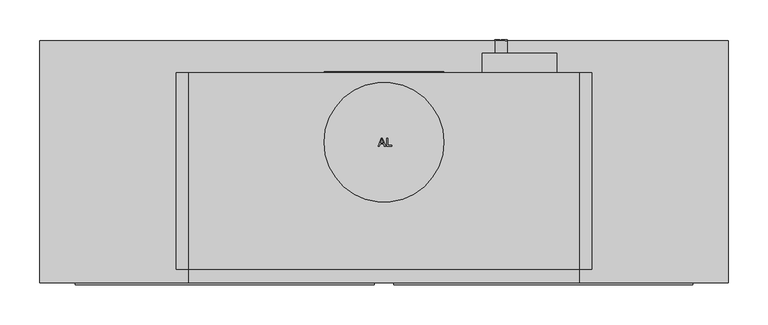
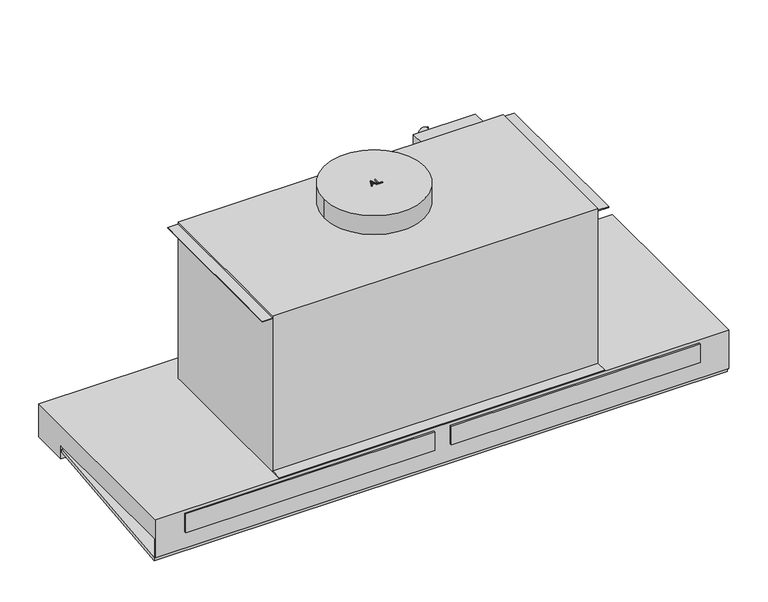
"""IFC4 building model written with IfcOpenShell, lengths in millimetres: proxy geometry, 12011370_TR_DAS4940_GLTR : 28S4940T_TR_12011370_DAS4940_GLTR."""

from ifc_helpers import new_model, si_unit, point, frame, frame_2d, origin, origin_with_axes, place, context, project, spatial, polyline, circle_curve, trimmed, segment, composite_curve, outline, extrude, faceted_brep, source, transform, mapped, element, save
from ifc_brep_helpers import plane_surface, revolved_surface, advanced_brep


def specialty_equipment_05735b6a(model_context):
    return source(origin(), model_context, "Body", "SolidModel", [
        extrude(outline(polyline([(77.8856768, -57.4839826), (77.8856768, -59.8818533), (-77.8856768, -59.8818533), (-77.8856768, -57.4839826), (77.8856768, -57.4839826)])), frame((0.0, 0.0, -47.0), z_axis=(0.0, 0.0, 1.0), x_axis=(1.0, 0.0, 0.0)), (0.0, 0.0, 1.0), 13.3389155),
        extrude(outline(polyline([(119.0, -21.25), (119.0, -33.75), (-119.0, -33.75), (-119.0, -21.25), (119.0, -21.25)])), frame((0.0, 0.0, -52.0), z_axis=(0.0, 0.0, 1.0), x_axis=(1.0, 0.0, 0.0)), (0.0, 0.0, 1.0), 1.0),
        extrude(outline(composite_curve([segment(trimmed(circle_curve(frame_2d((96.0, 0.0)), 75.0), [point((96.0, -75.0))], [point((96.0, 75.0))], False, "CARTESIAN"), True, "CONTINUOUS"), segment(trimmed(circle_curve(frame_2d((96.0, 0.0)), 75.0), [point((96.0, 75.0))], [point((96.0, -75.0))], False, "CARTESIAN"), True, "CONTINUOUS")], self_intersect=False)), frame((0.0, -40.0, 0.0), z_axis=(0.0, 1.0, 0.0), x_axis=(0.0, 0.0, 1.0)), (0.0, 0.0, 1.0), 1.0),
        extrude(outline(polyline([(-7.1443719, -132.0), (-3.1344581, -121.954369), (-2.0651478, -121.954369), (1.9447659, -132.0), (0.6179382, -132.0), (-0.5323062, -128.8607403), (-4.6697523, -128.8607403), (-5.8175442, -132.0), (-7.1443719, -132.0)]), holes=[polyline([(-4.2086736, -127.6050364), (-0.9909324, -127.6050364), (-1.8959221, -125.135322), (-2.599803, -123.2100729), (-3.2252024, -124.9194979), (-4.2086736, -127.6050364)])]), frame((0.0, 0.0, 278.0), z_axis=(0.0, 0.0, 1.0), x_axis=(1.0, 0.0, 0.0)), (0.0, 0.0, 1.0), 1.0),
        extrude(outline(polyline([(3.2863089, -132.0), (3.2863089, -121.954369), (4.5420128, -121.954369), (4.5420128, -130.7442961), (9.5648283, -130.7442961), (9.5648283, -132.0), (3.2863089, -132.0)])), frame((0.0, 0.0, 278.0), z_axis=(0.0, 0.0, 1.0), x_axis=(1.0, 0.0, 0.0)), (0.0, 0.0, 1.0), 1.0),
        extrude(outline(polyline([(244.2, -285.7), (244.2, -303.0), (-244.2, -303.0), (-244.2, -285.7), (244.2, -285.7)])), origin_with_axes(), (0.0, 0.0, 1.0), 1.5),
        extrude(outline(composite_curve([segment(trimmed(circle_curve(frame_2d((0.0, -127.0)), 75.0), [point((-75.0, -127.0))], [point((75.0, -127.0))], False, "CARTESIAN"), True, "CONTINUOUS"), segment(trimmed(circle_curve(frame_2d((0.0, -127.0)), 75.0), [point((75.0, -127.0))], [point((-75.0, -127.0))], False, "CARTESIAN"), True, "CONTINUOUS")], self_intersect=False)), frame((0.0, 0.0, 248.0), z_axis=(0.0, 0.0, 1.0), x_axis=(1.0, 0.0, 0.0)), (0.0, 0.0, 1.0), 30.0),
        extrude(outline(polyline([(244.2, -40.0), (244.2, -285.7), (-244.2, -285.7), (-244.2, -40.0), (244.2, -40.0)])), origin_with_axes(), (0.0, 0.0, 1.0), 248.0),
        advanced_brep(
        [(139.2477053, -32.0, 112.309241), (143.1522947, -32.0, 112.309241), (138.736538, -40.0, 112.309241), (143.663462, -40.0, 112.309241)],
        [
            (0, 1, circle_curve(frame((141.2, -32.0, 112.309241), z_axis=(0.0, 1.0, 0.0), x_axis=(-1.0, 0.0, 0.0)), 1.9522947)),
            (1, 0, circle_curve(frame((141.2, -32.0, 112.309241), z_axis=(0.0, 1.0, 0.0), x_axis=(1.0, 0.0, 0.0)), 1.9522947)),
            (2, 3, circle_curve(frame((141.2, -40.0, 112.309241), z_axis=(0.0, -1.0, 0.0), x_axis=(1.0, 0.0, 0.0)), 2.463462)),
            (3, 2, circle_curve(frame((141.2, -40.0, 112.309241), z_axis=(0.0, -1.0, 0.0), x_axis=(-1.0, 0.0, 0.0)), 2.463462)),
            (2, 0),
            (1, 3),
        ],
        [
            plane_surface(frame((141.2, -32.0, 112.309241), z_axis=(0.0, 1.0, 0.0), x_axis=(0.0, 0.0, -1.0))),
            plane_surface(frame((141.2, -40.0, 112.309241), z_axis=(0.0, -1.0, 0.0), x_axis=(0.0, 0.0, -1.0))),
            revolved_surface(polyline([(143.15229478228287, -32.0, 112.309241), (143.663462, -40.0, 112.309241)]), (141.2, -1.4456966, 112.309241), (0.0, -1.0, 0.0)),
            revolved_surface(polyline([(139.2477052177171, -32.0, 112.309241), (138.736538, -40.0, 112.309241)]), (141.2, -1.4456966, 112.309241), (0.0, -1.0, 0.0)),
        ],
        [
            (0, [[1, 2]]),
            (1, [[3, 4]]),
            (2, [[-3, 5, -2, 6]]),
            (3, [[-4, -6, -1, -5]]),
        ],
    ),
        extrude(outline(polyline([(-12.3800203, -305.5611099), (-386.3800203, -305.5611099), (-386.3800203, -303.0), (-12.3800203, -303.0), (-12.3800203, -305.5611099)])), frame((0.0, 0.0, -35.0), z_axis=(0.0, 0.0, 1.0), x_axis=(1.0, 0.0, 0.0)), (0.0, 0.0, 1.0), 30.0),
        extrude(outline(polyline([(386.3800203, -305.5611099), (12.3800203, -305.5611099), (12.3800203, -303.0), (386.3800203, -303.0), (386.3800203, -305.5611099)])), frame((0.0, 0.0, -35.0), z_axis=(0.0, 0.0, 1.0), x_axis=(1.0, 0.0, 0.0)), (0.0, 0.0, 1.0), 30.0),
        extrude(outline(polyline([(225.5721205, 154.3772603), (235.6177515, 154.3772603), (235.6177515, 147.156963), (234.3620477, 147.156963), (234.3620477, 153.1215564), (231.3797509, 153.1215564), (231.3797509, 147.470889), (230.1240471, 147.470889), (230.1240471, 153.1215564), (226.8278244, 153.1215564), (226.8278244, 147.0), (225.5721205, 147.0), (225.5721205, 154.3772603)])), frame((0.0, 0.0, 0.0), z_axis=(0.0, 1.0, 0.0), x_axis=(0.0, 0.0, 1.0)), (0.0, 0.0, 1.0), 1.0),
        extrude(outline(polyline([(225.5721205, 145.1164442), (235.6177515, 145.1164442), (235.6177515, 143.8607403), (226.8278244, 143.8607403), (226.8278244, 138.8379248), (225.5721205, 138.8379248), (225.5721205, 145.1164442)])), frame((0.0, 0.0, 0.0), z_axis=(0.0, 1.0, 0.0), x_axis=(0.0, 0.0, 1.0)), (0.0, 0.0, 1.0), 1.0),
        extrude(outline(composite_curve([segment(trimmed(circle_curve(frame_2d((230.0, 147.0)), 7.5), [point((230.0, 139.5))], [point((230.0, 154.5))], False, "CARTESIAN"), True, "CONTINUOUS"), segment(trimmed(circle_curve(frame_2d((230.0, 147.0)), 7.5), [point((230.0, 154.5))], [point((230.0, 139.5))], False, "CARTESIAN"), True, "CONTINUOUS")], self_intersect=False)), frame((0.0, -15.8362154, 0.0), z_axis=(0.0, 1.0, 0.0), x_axis=(0.0, 0.0, 1.0)), (0.0, 0.0, 1.0), 15.8362154),
        extrude(outline(polyline([(216.0, -40.0), (123.0, -40.0), (123.0, -15.8362154), (216.0, -15.8362154), (216.0, -40.0)])), frame((0.0, 0.0, 204.0), z_axis=(0.0, 0.0, 1.0), x_axis=(1.0, 0.0, 0.0)), (0.0, 0.0, 1.0), 40.0),
        extrude(outline(polyline([(260.2, -40.0), (260.2, -285.7), (244.2, -285.7), (244.2, -40.0), (260.2, -40.0)])), frame((0.0, 0.0, 244.0), z_axis=(0.0, 0.0, 1.0), x_axis=(1.0, 0.0, 0.0)), (0.0, 0.0, 1.0), 1.0),
        extrude(outline(polyline([(-260.2, -40.0), (-244.2, -40.0), (-244.2, -285.7), (-260.2, -285.7), (-260.2, -40.0)])), frame((0.0, 0.0, 244.0), z_axis=(0.0, 0.0, 1.0), x_axis=(1.0, 0.0, 0.0)), (0.0, 0.0, 1.0), 1.0),
        faceted_brep([(430.5, -299.7468379, -67.5557033), (430.5, -59.2082867, -41.0), (430.5, -59.7569582, -36.0301952), (430.5, -300.2955094, -62.5858985), (-430.5, -299.7468379, -67.5557033), (-430.5, -300.2955094, -62.5858985), (-430.5, -59.7569582, -36.0301952), (-430.5, -59.2082867, -41.0), (-124.4454672, -59.2082867, -41.0), (-124.4454672, -119.0, -47.6010666), (124.4454672, -119.0, -47.6010666), (124.4454672, -59.2082867, -41.0), (124.4454672, -59.7569582, -36.0301952), (-124.4454672, -59.7569582, -36.0301952), (124.4454672, -119.0, -42.5706879), (-124.4454672, -119.0, -42.5706879)], [[[0, 1, 2, 3]], [[4, 5, 6, 7]], [[1, 0, 4, 7, 8, 9, 10, 11]], [[2, 1, 11, 12]], [[7, 6, 13, 8]], [[3, 2, 12, 14, 15, 13, 6, 5]], [[0, 3, 5, 4]], [[14, 10, 9, 15]], [[15, 9, 8, 13]], [[10, 14, 12, 11]]]),
        faceted_brep([(430.5, 0.0, 0.0), (-430.5, 0.0, 0.0), (-430.5, -303.0, 0.0), (430.5, -303.0, 0.0), (-430.5, 0.0, -52.0), (430.5, 0.0, -52.0), (430.5, -57.4839826, -52.0), (-430.5, -57.4839826, -52.0), (-125.0, -41.0, -52.0), (125.0, -41.0, -52.0), (125.0, -14.0, -52.0), (-125.0, -14.0, -52.0), (-430.5, -57.4839826, -32.0), (-430.5, -300.9839826, -32.0), (-430.5, -301.010493, -60.7521078), (-430.5, -303.0, -60.7521078), (430.5, -303.0, -60.7521078), (430.5, -301.010493, -60.7521078), (430.5, -300.9839826, -32.0), (430.5, -57.4839826, -32.0), (25.0, -280.0, -32.0), (375.0, -280.0, -32.0), (375.0, -65.0, -32.0), (25.0, -65.0, -32.0), (-375.0, -280.0, -32.0), (-25.0, -280.0, -32.0), (-25.0, -65.0, -32.0), (-375.0, -65.0, -32.0), (-125.0, -41.0, -49.0), (-125.0, -14.0, -49.0), (125.0, -14.0, -49.0), (125.0, -41.0, -49.0), (25.0, -280.0, -29.3493229), (25.0, -65.0, -29.3493229), (375.0, -65.0, -29.3493229), (375.0, -280.0, -29.3493229), (-375.0, -280.0, -29.3493229), (-375.0, -65.0, -29.3493229), (-25.0, -65.0, -29.3493229), (-25.0, -280.0, -29.3493229)], [[[0, 1, 2, 3]], [[4, 5, 6, 7], [8, 9, 10, 11]], [[1, 0, 5, 4]], [[2, 1, 4, 7, 12, 13, 14, 15]], [[3, 2, 15, 16]], [[0, 3, 16, 17, 18, 19, 6, 5]], [[17, 16, 15, 14]], [[18, 13, 12, 19], [20, 21, 22, 23], [24, 25, 26, 27]], [[14, 13, 18, 17]], [[19, 12, 7, 6]], [[28, 29, 30, 31]], [[28, 31, 9, 8]], [[31, 30, 10, 9]], [[30, 29, 11, 10]], [[29, 28, 8, 11]], [[32, 33, 34, 35]], [[36, 37, 38, 39]], [[32, 35, 21, 20]], [[35, 34, 22, 21]], [[34, 33, 23, 22]], [[33, 32, 20, 23]], [[36, 39, 25, 24]], [[39, 38, 26, 25]], [[38, 37, 27, 26]], [[37, 36, 24, 27]]]),
    ])


if __name__ == "__main__":
    model = new_model("IFC4")
    model_context = context("Model", 3, world=origin())
    ifc_project = project(units=[si_unit("LENGTHUNIT", "METRE", prefix="MILLI")], contexts=[model_context])
    site = spatial("IfcSite", under=ifc_project)
    building = spatial("IfcBuilding", under=site)
    placement = place(None, origin())
    specialty_equipment_shape = specialty_equipment_05735b6a(model_context)
    element("IfcBuildingElementProxy", 1, Name="12011370_TR_DAS4940_GLTR : 28S4940T_TR_12011370_DAS4940_GLTR", ObjectType="12011370_TR_DAS4940_GLTR : 28S4940T_TR_12011370_DAS4940_GLTR", at=placement, inside=building, context=model_context, shape_type="MappedRepresentation", body=[
        mapped(specialty_equipment_shape, transform((0.0, 0.0, 0.0), x_axis=(1.0, 0.0, 0.0), y_axis=(0.0, 1.0, 0.0), z_axis=(0.0, 0.0, 1.0))),
    ])
    save(model, "model.ifc")
